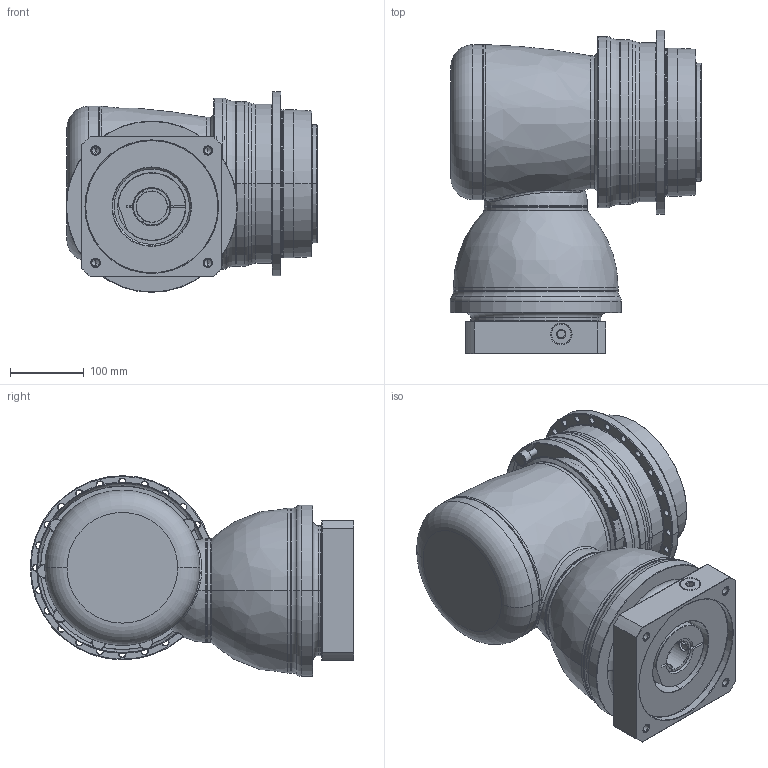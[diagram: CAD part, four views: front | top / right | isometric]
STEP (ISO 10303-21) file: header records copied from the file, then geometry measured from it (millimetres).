
FILE_DESCRIPTION((''),'2;1');
FILE_NAME('APK200_2ST_42-P0409A00201_ASM','2018-06-07T',('D00080'),(''),'PRO/ENGINEER BY PARAMETRIC TECHNOLOGY CORPORATION, 2008170','PRO/ENGINEER BY PARAMETRIC TECHNOLOGY CORPORATION, 2008170','');
FILE_SCHEMA(('CONFIG_CONTROL_DESIGN'));
Length unit declared in the file: millimetre
Products named in the file (13): P1008600002; P1802610011; P0278601003; P0359601103; P1211600001; P1315600001; P1007601001; P1318610301; P0503A00012; P0912603001; P0409A00201; 21711422019; APK200_2ST_42-P0409A00201_ASM
Assembly tree (12 placements, depth 2):
  APK200_2ST_42-P0409A00201_ASM
    P1008600002
    P1802610011
    P0278601003
    P0359601103
    P1211600001
    P1315600001
    P1007601001
    P1318610301
    P0503A00012
    P0912603001
    P0409A00201
    21711422019
Bounding box: 341 x 438.25 x 271.75 mm (x, y, z)
Volume: 18256138.6 mm3; surface area: 1213639.5 mm2
Topology: 13 solids, 38 shells, 876 faces, 2041 edges, 1239 vertices
Faces by surface type: cylinder 357, cone 240, plane 154, torus 90, bspline 33, sphere 2
Entity records: 31472 total; most frequent: CARTESIAN_POINT 10738, DIRECTION 4789, ORIENTED_EDGE 3892, AXIS2_PLACEMENT_3D 2063, EDGE_CURVE 1997, VERTEX_POINT 1239, CIRCLE 1185, EDGE_LOOP 1032
